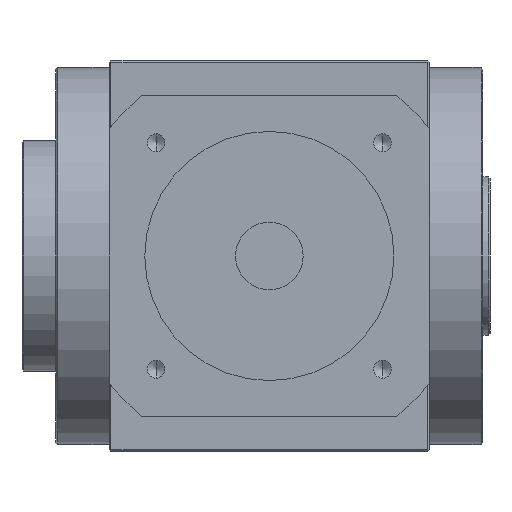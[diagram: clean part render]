
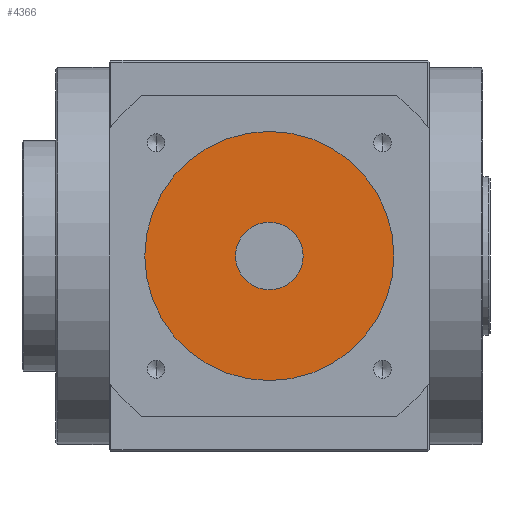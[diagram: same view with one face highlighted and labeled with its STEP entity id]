
A CAD part, front view. The second image highlights one B-rep face of the part: STEP entity #4366.
In plain terms, the highlighted planar face has unit normal (0, -1, 0).
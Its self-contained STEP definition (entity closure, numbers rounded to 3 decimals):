
#17 = AXIS2_PLACEMENT_3D ( 'NONE', #10419, #10382, #10356 ) ;
#287 = VERTEX_POINT ( 'NONE', #9680 ) ;
#628 = CIRCLE ( 'NONE', #17, 9.5 ) ;
#879 = AXIS2_PLACEMENT_3D ( 'NONE', #9249, #9247, #9235 ) ;
#1003 = ORIENTED_EDGE ( 'NONE', *, *, #2410, .T. ) ;
#1055 = VERTEX_POINT ( 'NONE', #4667 ) ;
#1162 = EDGE_CURVE ( 'NONE', #6447, #4209, #4316, .T. ) ;
#2410 = EDGE_CURVE ( 'NONE', #1055, #287, #3531, .T. ) ;
#3493 = DIRECTION ( 'NONE',  ( 0., 0., -1. ) ) ;
#3495 = DIRECTION ( 'NONE',  ( 0., -1., 0. ) ) ;
#3505 = CARTESIAN_POINT ( 'NONE',  ( 0., -189., 0. ) ) ;
#3531 = CIRCLE ( 'NONE', #879, 9.5 ) ;
#3762 = CARTESIAN_POINT ( 'NONE',  ( 0., -189., -35. ) ) ;
#4162 = DIRECTION ( 'NONE',  ( 0., 0., -1. ) ) ;
#4178 = EDGE_CURVE ( 'NONE', #287, #1055, #628, .T. ) ;
#4209 = VERTEX_POINT ( 'NONE', #10318 ) ;
#4211 = DIRECTION ( 'NONE',  ( 0., -1., 0. ) ) ;
#4246 = CARTESIAN_POINT ( 'NONE',  ( 0., -189., 0. ) ) ;
#4316 = CIRCLE ( 'NONE', #8243, 35. ) ;
#4366 = ADVANCED_FACE ( 'NONE', ( #9772, #8750 ), #8215, .T. ) ;
#4611 = ORIENTED_EDGE ( 'NONE', *, *, #4178, .T. ) ;
#4667 = CARTESIAN_POINT ( 'NONE',  ( 0., -189., 9.5 ) ) ;
#5140 = EDGE_CURVE ( 'NONE', #4209, #6447, #5211, .T. ) ;
#5211 = CIRCLE ( 'NONE', #8824, 35. ) ;
#5324 = EDGE_LOOP ( 'NONE', ( #4611, #1003 ) ) ;
#5706 = AXIS2_PLACEMENT_3D ( 'NONE', #8570, #8002, #7981 ) ;
#6447 = VERTEX_POINT ( 'NONE', #3762 ) ;
#6550 = ORIENTED_EDGE ( 'NONE', *, *, #5140, .T. ) ;
#7955 = EDGE_LOOP ( 'NONE', ( #10026, #6550 ) ) ;
#7981 = DIRECTION ( 'NONE',  ( 0., 0., -1. ) ) ;
#8002 = DIRECTION ( 'NONE',  ( 0., -1., 0. ) ) ;
#8215 = PLANE ( 'NONE',  #5706 ) ;
#8243 = AXIS2_PLACEMENT_3D ( 'NONE', #3505, #3495, #3493 ) ;
#8570 = CARTESIAN_POINT ( 'NONE',  ( 0., -189., 0. ) ) ;
#8750 = FACE_OUTER_BOUND ( 'NONE', #7955, .T. ) ;
#8824 = AXIS2_PLACEMENT_3D ( 'NONE', #4246, #4211, #4162 ) ;
#9235 = DIRECTION ( 'NONE',  ( 0., 0., -1. ) ) ;
#9247 = DIRECTION ( 'NONE',  ( 0., 1., 0. ) ) ;
#9249 = CARTESIAN_POINT ( 'NONE',  ( 0., -189., 0. ) ) ;
#9680 = CARTESIAN_POINT ( 'NONE',  ( 0., -189., -9.5 ) ) ;
#9772 = FACE_BOUND ( 'NONE', #5324, .T. ) ;
#10026 = ORIENTED_EDGE ( 'NONE', *, *, #1162, .T. ) ;
#10318 = CARTESIAN_POINT ( 'NONE',  ( 0., -189., 35. ) ) ;
#10356 = DIRECTION ( 'NONE',  ( 0., 0., -1. ) ) ;
#10382 = DIRECTION ( 'NONE',  ( 0., 1., 0. ) ) ;
#10419 = CARTESIAN_POINT ( 'NONE',  ( 0., -189., 0. ) ) ;
